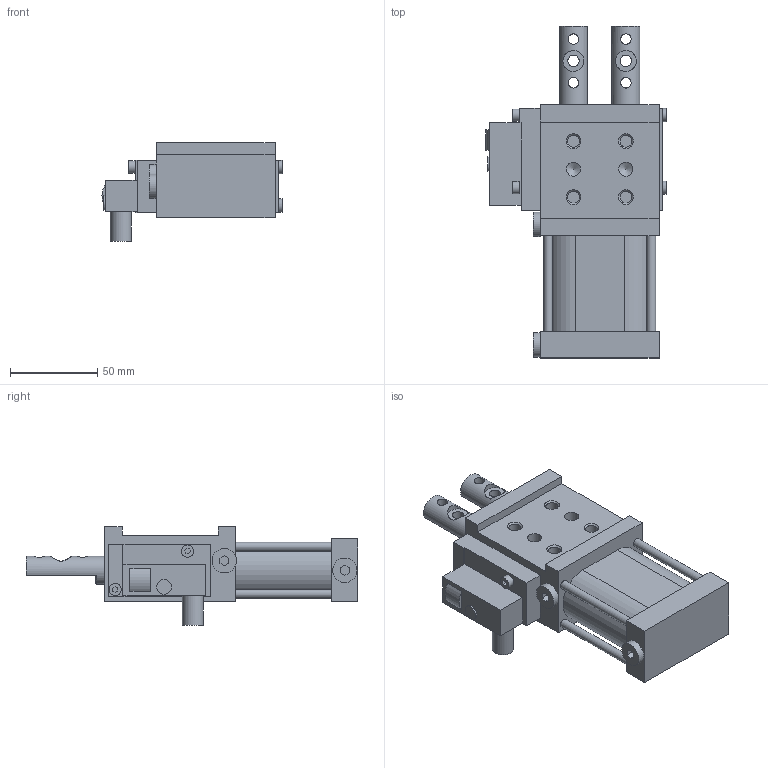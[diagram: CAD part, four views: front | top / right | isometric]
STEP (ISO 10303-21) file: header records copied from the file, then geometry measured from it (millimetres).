
FILE_DESCRIPTION((''),'2;1');
FILE_NAME('S:\Tom\INVENTOR FILES\AUTOMOTIVE\VEP\LOCATORS\DCPD Step Files\DCPD\SEC CAD\XLP40-2-2-ES1-20-S21.stp','2014-09-02T12:32:49',('carl'),(''),'Autodesk Inventor 2013','Autodesk Inventor 2013','');
FILE_SCHEMA(('AUTOMOTIVE_DESIGN { 1 0 10303 214 1 1 1 1 }'));
Length unit declared in the file: millimetre
Products named in the file (10): Assembly19; Part174; Part176; Part178; Part180; Part182; Part184; Part186; Part188; Part190
Assembly tree (9 placements, depth 2):
  Assembly19
    Part174
    Part176
    Part178
    Part180
    Part182
    Part184
    Part186
    Part188
    Part190
Bounding box: 103.1 x 190 x 56.5 mm (x, y, z)
Volume: 371703.4 mm3; surface area: 79250.1 mm2
Topology: 9 solids, 9 shells, 193 faces, 406 edges, 270 vertices
Faces by surface type: plane 128, cylinder 51, cone 14
Full cylindrical faces by diameter (mm): 3.3 x4, 4 x4, 5 x4, 6 x4, 6.6 x2, 6.8 x4, 7 x2, 7.6 x2, 8 x2, 8.5 x1, 8.8 x4, 9.2 x2, 10 x2, 12 x3, 14 x2, 16 x6
Entity records: 5274 total; most frequent: CARTESIAN_POINT 1014, DIRECTION 850, ORIENTED_EDGE 656, EDGE_CURVE 328, AXIS2_PLACEMENT_3D 320, EDGE_LOOP 308, VERTEX_POINT 252, VECTOR 210
